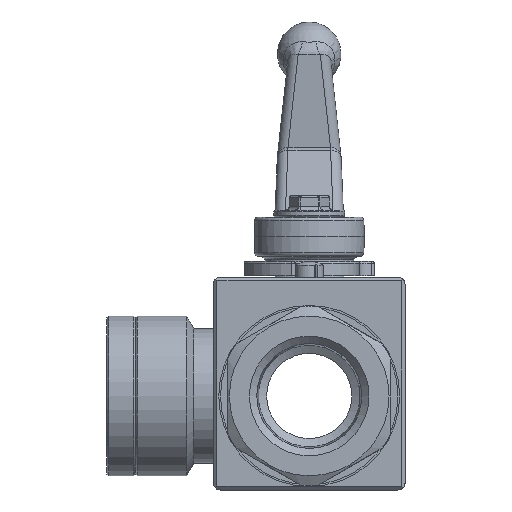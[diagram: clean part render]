
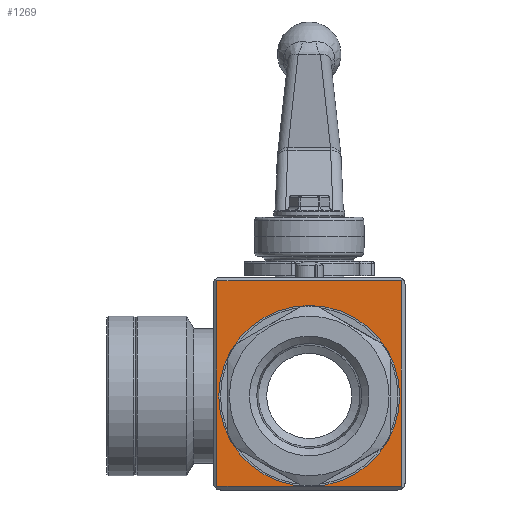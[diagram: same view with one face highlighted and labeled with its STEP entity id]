
A CAD part, front view. The second image highlights one B-rep face of the part: STEP entity #1269.
In plain terms, the highlighted planar face has unit normal (0, -1, 0).
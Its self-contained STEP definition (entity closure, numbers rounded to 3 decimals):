
#1269 = ADVANCED_FACE( '', ( #2572 ), #2573, .T. );
#2572 = FACE_OUTER_BOUND( '', #4561, .T. );
#2573 = PLANE( '', #4562 );
#4561 = EDGE_LOOP( '', ( #7805, #7806, #7807, #7808, #7809, #7810 ) );
#4562 = AXIS2_PLACEMENT_3D( '', #7811, #7812, #7813 );
#7805 = ORIENTED_EDGE( '', *, *, #9451, .T. );
#7806 = ORIENTED_EDGE( '', *, *, #9168, .T. );
#7807 = ORIENTED_EDGE( '', *, *, #9831, .F. );
#7808 = ORIENTED_EDGE( '', *, *, #9167, .T. );
#7809 = ORIENTED_EDGE( '', *, *, #8853, .T. );
#7810 = ORIENTED_EDGE( '', *, *, #9465, .T. );
#7811 = CARTESIAN_POINT( '', ( -27., -33.1, -26.5 ) );
#7812 = DIRECTION( '', ( 0., -1., 0. ) );
#7813 = DIRECTION( '', ( 0., 0., -1. ) );
#8853 = EDGE_CURVE( '', #10374, #10382, #10384, .T. );
#9167 = EDGE_CURVE( '', #10890, #10374, #10891, .T. );
#9168 = EDGE_CURVE( '', #10892, #10890, #10893, .T. );
#9451 = EDGE_CURVE( '', #11306, #10892, #11308, .T. );
#9465 = EDGE_CURVE( '', #10382, #11306, #11328, .T. );
#9831 = EDGE_CURVE( '', #10890, #10890, #11791, .T. );
#10374 = VERTEX_POINT( '', #12610 );
#10382 = VERTEX_POINT( '', #12620 );
#10384 = LINE( '', #12623, #12624 );
#10890 = VERTEX_POINT( '', #13438 );
#10891 = LINE( '', #13439, #13440 );
#10892 = VERTEX_POINT( '', #13441 );
#10893 = LINE( '', #13442, #13443 );
#11306 = VERTEX_POINT( '', #14249 );
#11308 = LINE( '', #14252, #14253 );
#11328 = LINE( '', #14280, #14281 );
#11791 = CIRCLE( '', #15148, 25.5 );
#12610 = CARTESIAN_POINT( '', ( 26., -33.1, -25.5 ) );
#12620 = CARTESIAN_POINT( '', ( 26., -33.1, 32.5 ) );
#12623 = CARTESIAN_POINT( '', ( 26., -33.1, 33.5 ) );
#12624 = VECTOR( '', #15974, 1000. );
#13438 = CARTESIAN_POINT( '', ( 0., -33.1, -25.5 ) );
#13439 = CARTESIAN_POINT( '', ( 27., -33.1, -25.5 ) );
#13440 = VECTOR( '', #16408, 1000. );
#13441 = CARTESIAN_POINT( '', ( -26., -33.1, -25.5 ) );
#13442 = CARTESIAN_POINT( '', ( 27., -33.1, -25.5 ) );
#13443 = VECTOR( '', #16409, 1000. );
#14249 = CARTESIAN_POINT( '', ( -26., -33.1, 32.5 ) );
#14252 = CARTESIAN_POINT( '', ( -26., -33.1, -26.5 ) );
#14253 = VECTOR( '', #16791, 1000. );
#14280 = CARTESIAN_POINT( '', ( -27., -33.1, 32.5 ) );
#14281 = VECTOR( '', #16808, 1000. );
#15148 = AXIS2_PLACEMENT_3D( '', #17227, #17228, #17229 );
#15974 = DIRECTION( '', ( 0., 0., 1. ) );
#16408 = DIRECTION( '', ( 1., 0., 0. ) );
#16409 = DIRECTION( '', ( 1., 0., 0. ) );
#16791 = DIRECTION( '', ( 0., 0., -1. ) );
#16808 = DIRECTION( '', ( -1., 0., 0. ) );
#17227 = CARTESIAN_POINT( '', ( 0., -33.1, 0. ) );
#17228 = DIRECTION( '', ( 0., -1., 0. ) );
#17229 = DIRECTION( '', ( 1., 0., 0. ) );
